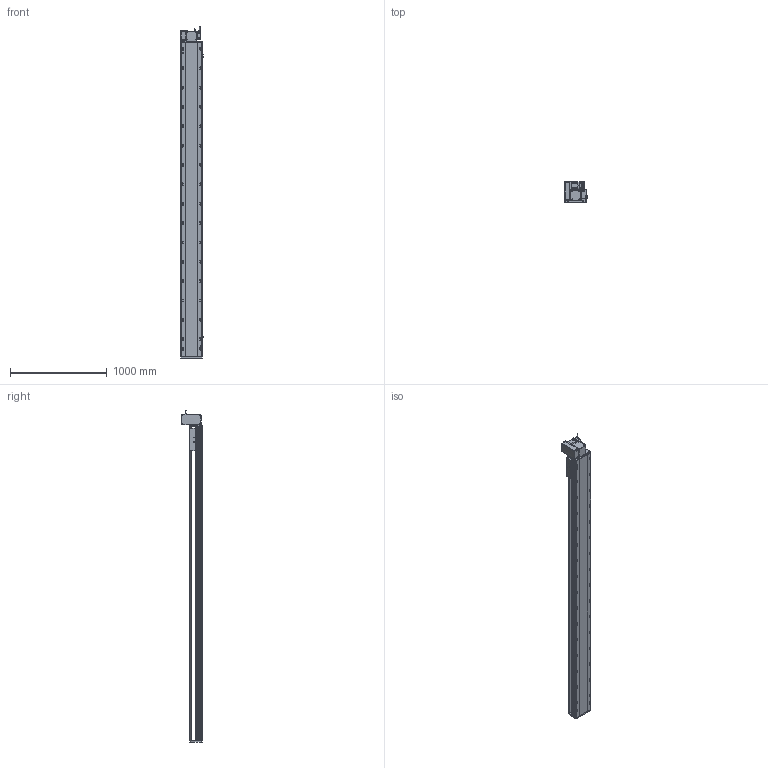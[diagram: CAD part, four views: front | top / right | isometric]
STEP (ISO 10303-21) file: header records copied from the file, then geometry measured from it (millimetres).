
FILE_DESCRIPTION (( 'STEP AP214' ), '1' );
FILE_NAME ('RTB22S-XX-2900-LW-M75-C4.STEP', '2025-12-12T07:04:35', ( '' ), ( '' ), 'SwSTEP 2.0', 'SolidWorks 2018', '' );
FILE_SCHEMA (( 'AUTOMOTIVE_DESIGN' ));
Length unit declared in the file: millimetre
Products named in the file (14): RTB22S-GY-017P^RTB22S-LW-々湍釱蚾饜_RTB22S-XX-XX-LW-M75-C4; RTB22S-GY-008-M75--萇儂啣^RTB22S-LW-々湍釱蚾饜_RTB22S-XX-XX-LW-M75-C4; RTB22S-GY-007奻裔^RTB22S-XX-XX-LW-M75-C4; RTH22-GY-013外置感应片^RTB22S-XX-XX-LW-M75-C4; RTB22S-GY-001耜裔^RTB22S-XX-XX-LW-M75-C4; 750W萇儂^RTB22S-XX-XX-LW-M75-C4; RTB22S-GY-005P^RTB22S-LW-々湍釱蚾饜_RTB22S-XX-XX-LW-M75-C4; RTB22S-GY-014--々湍釱^RTB22S-LW-々湍釱蚾饜_RTB22S-XX-XX-LW-M75-C4; RTB22S-LW-々湍釱蚾饜^RTB22S-XX-XX-LW-M75-C4; RTB22S-L-011菁釱^RTB22S-XX-XX-LW-M75-C4; RTB22S-XX-2900-LW-M75-C4; RTB22S-GY-018P^RTB22S-LW-々湍釱蚾饜_RTB22S-XX-XX-LW-M75-C4; OMRON EE-SX672 传感器^RTB22S-XX-XX-LW-M75-C4; RTB22S-L-004賑釱^RTB22S-XX-XX-LW-M75-C4
Assembly tree (16 placements, depth 3):
  RTB22S-XX-2900-LW-M75-C4
    RTB22S-L-011菁釱^RTB22S-XX-XX-LW-M75-C4
    RTB22S-GY-001耜裔^RTB22S-XX-XX-LW-M75-C4
    750W萇儂^RTB22S-XX-XX-LW-M75-C4
    RTB22S-GY-007奻裔^RTB22S-XX-XX-LW-M75-C4
    RTB22S-L-004賑釱^RTB22S-XX-XX-LW-M75-C4
    RTH22-GY-013外置感应片^RTB22S-XX-XX-LW-M75-C4
    OMRON EE-SX672 传感器^RTB22S-XX-XX-LW-M75-C4  x3
    RTB22S-LW-々湍釱蚾饜^RTB22S-XX-XX-LW-M75-C4
      RTB22S-GY-014--々湍釱^RTB22S-LW-々湍釱蚾饜_RTB22S-XX-XX-LW-M75-C4
      RTB22S-GY-017P^RTB22S-LW-々湍釱蚾饜_RTB22S-XX-XX-LW-M75-C4  x2
      RTB22S-GY-005P^RTB22S-LW-々湍釱蚾饜_RTB22S-XX-XX-LW-M75-C4
      RTB22S-GY-008-M75--萇儂啣^RTB22S-LW-々湍釱蚾饜_RTB22S-XX-XX-LW-M75-C4
      RTB22S-GY-018P^RTB22S-LW-々湍釱蚾饜_RTB22S-XX-XX-LW-M75-C4
Bounding box: 238.5 x 215.5 x 3432.2 mm (x, y, z)
Volume: 43422599.3 mm3; surface area: 4430304.3 mm2
Topology: 15 solids, 15 shells, 2145 faces, 5836 edges, 3722 vertices
Faces by surface type: plane 933, cylinder 730, bspline 296, cone 174, sphere 8, torus 4
Entity records: 58690 total; most frequent: CARTESIAN_POINT 16504, ORIENTED_EDGE 8388, DIRECTION 8228, EDGE_CURVE 4194, AXIS2_PLACEMENT_3D 2962, VERTEX_POINT 2726, VECTOR 2304, LINE 2304
